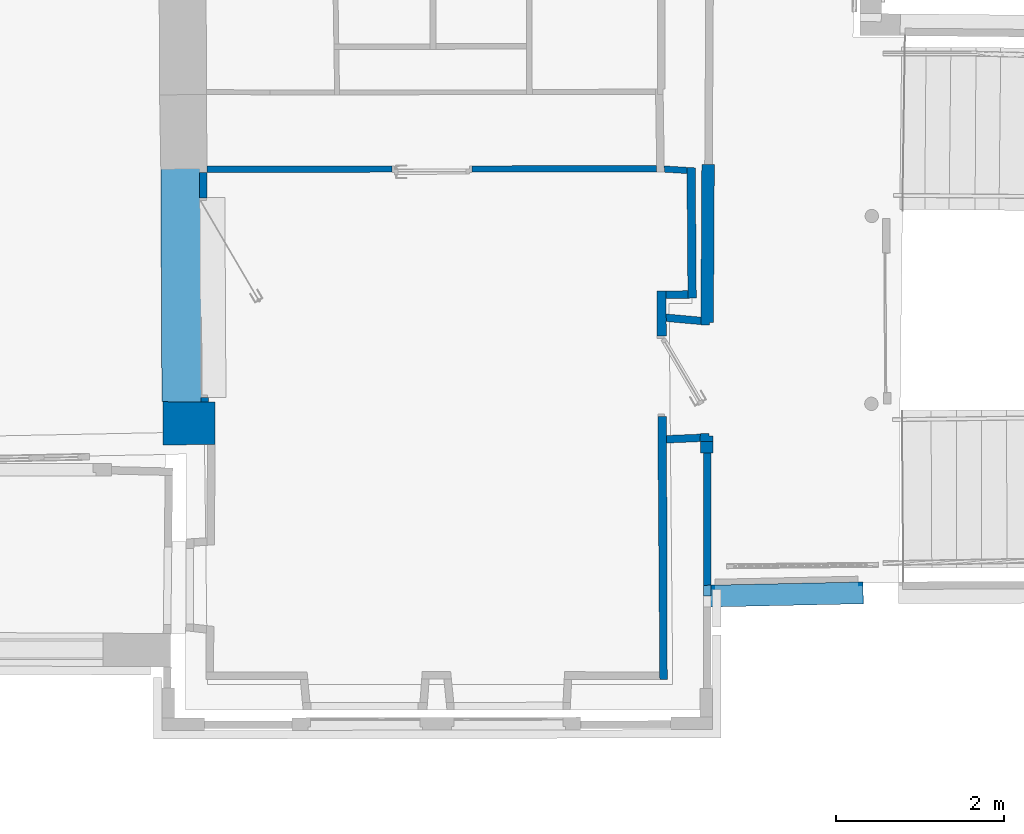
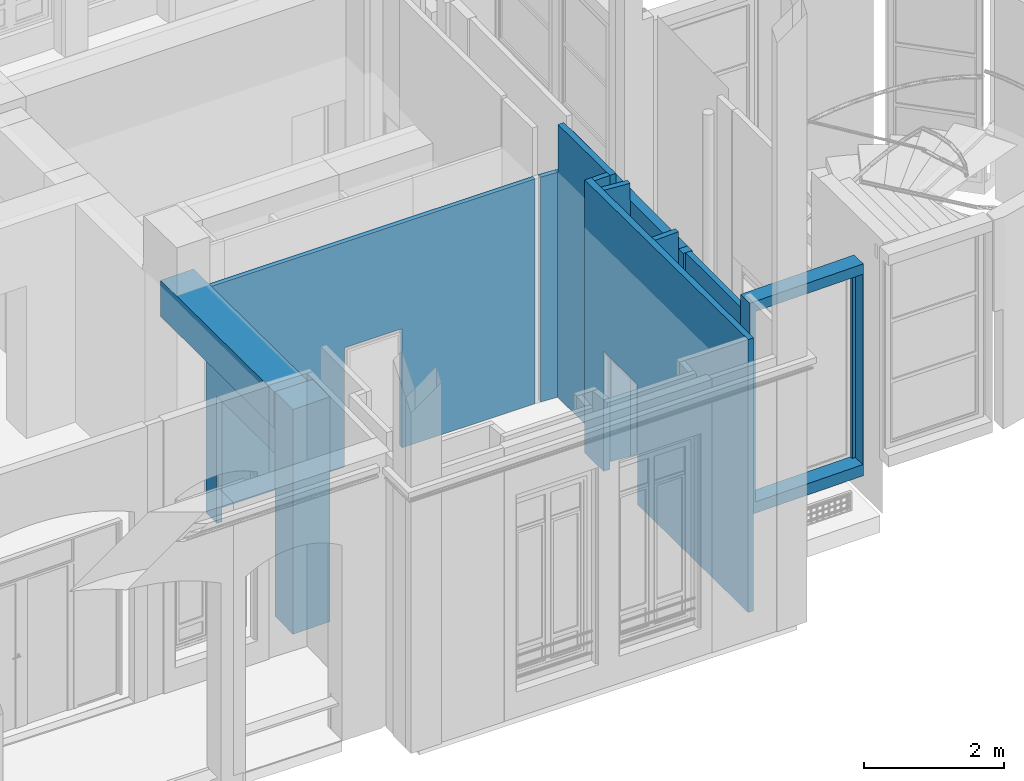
# One storey, part 14 of 97: 14 walls, 5 openings.
"""IFC2X3 building model written with IfcOpenShell, lengths in centimetres."""

from ifc_helpers import new_model, entity, si_unit, converted_unit, direction, frame, origin, origin_with_axes, origin_2d_with_axis, place, context, subcontext, project, spatial, polyline, rectangle, outline, extrude, clip, bounded_halfspace, faceted_brep, shape, material, layer, layer_set, layer_usage, type_object, element, save


model = new_model("IFC2X3")

# Units and contexts
model_context = context("Model", 3, precision=0.0001, world=origin(), true_north=direction((0.225632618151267, 0.974212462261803, 0.0)))
body_context = subcontext(model_context, "Body", "Model", "MODEL_VIEW")
footprint_context = subcontext(model_context, "FootPrint", "Model", "MODEL_VIEW")
profile_context = subcontext(model_context, "Profile", "Model", "MODEL_VIEW")
ifc_project = project(units=[si_unit("LENGTHUNIT", "METRE", prefix="CENTI"), si_unit("AREAUNIT", "SQUARE_METRE", prefix="CENTI"), si_unit("VOLUMEUNIT", "CUBIC_METRE", prefix="CENTI"), converted_unit("PLANEANGLEUNIT", "DEGREE", entity("IfcRatioMeasure", 0.0174532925), si_unit("PLANEANGLEUNIT", "RADIAN"), dimensions=[0, 0, 0, 0, 0, 0, 0])], contexts=[model_context])

# Site, building, storey
site_placement = place(None, origin_with_axes())
site = spatial("IfcSite", under=ifc_project, at=site_placement, Name="Default Site", CompositionType="ELEMENT")
building_placement = place(site_placement, origin_with_axes())
building = spatial("IfcBuilding", under=site, at=building_placement, Name="Default Building", CompositionType="ELEMENT")
storey_placement = place(building_placement, origin_with_axes())
storey = spatial("IfcBuildingStorey", under=building, at=storey_placement, Name="Rez-de-chaussée", CompositionType="ELEMENT", Elevation=0.0)

# Wall, opening
ifc_material = material(Name="<aucun>")
ifc_layer_1 = layer(ifc_material, 26.0)
ifc_layer_set_1 = layer_set([ifc_layer_1], Name="default")
ifc_layer_usage_1 = layer_usage(ifc_layer_set_1, "AXIS2", "POSITIVE", -13.0)
wall_type_1 = type_object("IfcWallType", Name="default 260", PredefinedType="NOTDEFINED", material=ifc_layer_set_1)
wall_1_placement = place(storey_placement, frame((893.110482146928, -889.643335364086, 100.0), z_axis=(0.0, 0.0, 1.0), x_axis=(0.999775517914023, 0.0211875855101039, 0.0)))
wall_1 = element("IfcWallStandardCase", 1, at=wall_1_placement, inside=storey, type_object=wall_type_1, material=ifc_layer_usage_1, Name="Enveloppe 531153", context=body_context, shape_type="SweptSolid", body=[
    extrude(outline(polyline([(-8.85924768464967, -12.9999999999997), (181.57111662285, -12.9999999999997), (181.571116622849, 13.0000000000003), (-8.3135869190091, 13.0000000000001), (-8.85924768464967, -12.9999999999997)])), frame((0.0, 0.0, -8.88178419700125e-14), z_axis=(0.0, 0.0, 1.0), x_axis=(1.0, 0.0, 0.0)), (0.0, 0.0, 1.0), 370.795358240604),
])
opening_1_placement = place(wall_1_placement, frame((0.321148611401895, 0.0, 19.7999999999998), z_axis=(0.0, 0.0, 1.0), x_axis=(-1.0, -1.196959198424e-15, 0.0)))
cartesian_point_1 = entity("IfcCartesianPoint", [0.0, -1.77635683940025e-13, 333.0])
cartesian_point_2 = entity("IfcCartesianPoint", [-180.275340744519, -13.0000000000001])
element("IfcOpeningElement", 2, at=opening_1_placement, cuts=wall_1, Name="4294966539_11", ObjectType="Opening", shapes=[
    shape(body_context, "Body", "Brep", [faceted_brep([(-4.99996269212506, -32.9999921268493, 332.999987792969), (-175.275346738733, -32.9999919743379, 332.999987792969), (-175.275346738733, -32.9999919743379, -4.57763669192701e-06), (-4.99996269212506, -32.9999921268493, -4.57763669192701e-06), (4.3093168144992e-05, 33.0000416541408, -4.57763669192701e-06), (-180.2753357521, 33.000041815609, -4.57763669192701e-06), (-180.2753357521, 33.000041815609, 332.999987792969), (4.3093168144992e-05, 33.0000416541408, 332.999987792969), (-4.99996266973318, -8.00000513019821, -4.57763669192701e-06), (-4.99996266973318, -8.00000513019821, 332.999987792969), (-5.00003942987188, -8.00000513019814, 332.999987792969), (-5.00003942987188, -8.00000513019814, -4.57763669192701e-06), (-4.20305417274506e-05, -8.00000513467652, -4.57763669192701e-06), (-4.20305417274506e-05, -8.00000513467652, 332.999987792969), (-4.20305417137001e-05, -7.99998978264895, 332.999987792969), (-4.20305417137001e-05, -7.99998978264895, -4.57763669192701e-06), (-4.19938189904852e-05, 33.0000416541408, -4.57763669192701e-06), (-4.19938189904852e-05, 33.0000416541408, 332.999987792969), (-175.275346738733, -33.0000178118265, -4.57763669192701e-06), (-175.275328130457, -8.00003283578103, -4.57763669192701e-06), (-180.275323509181, -7.99995283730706, -4.57763669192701e-06), (-180.2753357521, 32.9999852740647, -4.57763669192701e-06), (-175.275346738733, -33.0000178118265, 332.999987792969), (-175.275346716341, -8.00003283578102, 332.999987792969), (-175.275346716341, -8.00003283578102, -4.57763669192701e-06), (-175.275328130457, -8.00003283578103, 332.999987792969), (-180.275323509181, -8.00003283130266, 332.999987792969), (-180.275323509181, -8.00003283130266, -4.57763669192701e-06), (-180.275323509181, -7.99995283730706, 332.999987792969), (-180.275323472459, 32.9999852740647, 332.999987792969), (-180.275323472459, 32.9999852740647, -4.57763669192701e-06), (-180.2753357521, 32.9999852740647, 332.999987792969)], [[[0, 1, 2, 3]], [[4, 5, 6, 7]], [[0, 3, 8, 9]], [[10, 11, 12, 13]], [[14, 15, 16, 17]], [[3, 18, 19, 20, 21, 4, 15, 11]], [[18, 22, 23, 24]], [[19, 25, 26, 27]], [[20, 28, 29, 30]], [[10, 14, 7, 31, 28, 25, 22, 0]]])]),
    shape(profile_context, "Profile", "GeometricCurveSet", [entity("IfcGeometricCurveSet", [entity("IfcPolyline", [cartesian_point_1, entity("IfcCartesianPoint", [0.0, -1.77635683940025e-13, 0.0]), entity("IfcCartesianPoint", [-180.275340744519, 0.0, 0.0]), entity("IfcCartesianPoint", [-180.275340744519, 0.0, 333.0]), cartesian_point_1])])]),
    shape(footprint_context, "FootPrint", "GeometricCurveSet", [entity("IfcGeometricCurveSet", [entity("IfcPolyline", [cartesian_point_2, entity("IfcCartesianPoint", [0.0, -13.0000000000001]), entity("IfcCartesianPoint", [0.0, 12.9999999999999]), entity("IfcCartesianPoint", [-180.275340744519, 12.9999999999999]), cartesian_point_2])])]),
])

ifc_layer_2 = layer(ifc_material, 9.0)
ifc_layer_set_2 = layer_set([ifc_layer_2], Name="default")
ifc_layer_usage_2 = layer_usage(ifc_layer_set_2, "AXIS2", "POSITIVE", -4.5)
wall_type_2 = type_object("IfcWallType", Name="default 90", PredefinedType="NOTDEFINED", material=ifc_layer_set_2)
wall_2_placement = place(storey_placement, frame((289.706324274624, -658.326403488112, 0.0128503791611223), z_axis=(0.0, 0.0, 1.0), x_axis=(-0.00550813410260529, 0.999984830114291, 0.0)))
wall_2 = element("IfcWallStandardCase", 3, at=wall_2_placement, inside=storey, type_object=wall_type_2, material=ifc_layer_usage_2, Name="Enveloppe 752182", context=body_context, shape_type="SweptSolid", body=[
    extrude(rectangle(XDim=9.00000000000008, YDim=273.233605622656, at=origin_2d_with_axis()), frame((136.715660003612, 1.11022302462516e-12, -3.10867867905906e-13), z_axis=(0.0, 0.0, 1.0), x_axis=(-2.60208521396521e-17, -1.0, 0.0)), (0.0, 0.0, 1.0), 329.987149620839),
])
opening_2_placement = place(wall_2_placement, frame((5.27626808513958, 5.6843418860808e-14, 8.84708972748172e-17), z_axis=(0.0, 0.0, 1.0), x_axis=(1.0, 8.04304539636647e-15, 0.0)))
cartesian_point_3 = entity("IfcCartesianPoint", [0.0, 0.0, 222.3])
cartesian_point_4 = entity("IfcCartesianPoint", [238.127524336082, 4.50000000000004])
element("IfcOpeningElement", 4, at=opening_2_placement, cuts=wall_2, Name="4294966380_11", ObjectType="Opening", shapes=[
    shape(body_context, "Body", "SweptSolid", [extrude(outline(polyline([(0.0, 222.3), (0.0, 0.0), (238.127524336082, 0.0), (238.127524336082, 222.3), (0.0, 222.3)])), frame((0.0, 14.5, 0.0), z_axis=(0.0, -1.0, 0.0), x_axis=(1.0, 0.0, 0.0)), (0.0, 0.0, 1.0), 29.0)]),
    shape(profile_context, "Profile", "GeometricCurveSet", [entity("IfcGeometricCurveSet", [entity("IfcPolyline", [cartesian_point_3, entity("IfcCartesianPoint", [0.0, 0.0, 0.0]), entity("IfcCartesianPoint", [238.127524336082, 0.0, 0.0]), entity("IfcCartesianPoint", [238.127524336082, 0.0, 222.3]), cartesian_point_3])])]),
    shape(footprint_context, "FootPrint", "GeometricCurveSet", [entity("IfcGeometricCurveSet", [entity("IfcPolyline", [cartesian_point_4, entity("IfcCartesianPoint", [0.0, 4.50000000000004]), entity("IfcCartesianPoint", [0.0, -4.50000000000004]), entity("IfcCartesianPoint", [238.127524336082, -4.49999999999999]), cartesian_point_4])])]),
])

# Walls
ifc_layer_usage_3 = layer_usage(ifc_layer_set_2, "AXIS2", "POSITIVE", -4.5)
wall_3_placement = place(storey_placement, frame((837.70810120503, -530.391457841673, 0.0128503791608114), z_axis=(0.0, 0.0, 1.0), x_axis=(0.999974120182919, 0.00719437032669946, 0.0)))
element("IfcWallStandardCase", 5, at=wall_3_placement, inside=storey, type_object=wall_type_2, material=ifc_layer_usage_3, Name="Enveloppe 719231", context=body_context, shape_type="SweptSolid", body=[
    extrude(rectangle(XDim=25.916160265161, YDim=9.00000064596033, at=origin_2d_with_axis()), frame((15.043626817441, -8.88178419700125e-14, -2.71050543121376e-18), z_axis=(0.0, 0.0, 1.0), x_axis=(1.0, -9.89226062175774e-15, 0.0)), (0.0, 0.0, 1.0), 477.795358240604),
])
ifc_layer_usage_4 = layer_usage(ifc_layer_set_2, "AXIS2", "POSITIVE", -4.5)
wall_4_placement = place(storey_placement, frame((881.34857271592, -561.654514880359, 0.0128503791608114), z_axis=(0.0, 0.0, 1.0), x_axis=(-0.995993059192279, 0.0894305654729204, 0.0)))
element("IfcWallStandardCase", 6, at=wall_4_placement, inside=storey, type_object=wall_type_2, material=ifc_layer_usage_4, Name="Enveloppe 719262", context=body_context, shape_type="Clipping", body=[
    clip(clip(extrude(outline(polyline([(42.0381142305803, -4.5000000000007), (41.2037277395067, 4.06395358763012), (41.2037277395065, 4.49999999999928), (-0.242515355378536, 4.49999999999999), (0.0, 1.61616098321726), (-1.77635683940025e-13, -4.50000000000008), (42.0381142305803, -4.5000000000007)])), frame((0.0, 0.0, 2.71050543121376e-18), z_axis=(0.0, 0.0, 1.0), x_axis=(1.0, 0.0, 0.0)), (0.0, 0.0, 1.0), 477.795358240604), bounded_halfspace(frame((0.514336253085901, -4.49999999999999, 447.782507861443), z_axis=(0.0, 0.0, 1.0), x_axis=(-1.0, 6.01602101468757e-14, 0.0)), True, frame((0.514336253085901, -4.49999999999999, 447.782507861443), z_axis=(0.0, 0.0, 1.0), x_axis=(1.0, 0.0, 0.0)), polyline([(-0.514336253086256, 0.0), (-0.514336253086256, 6.11616098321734), (-1.77635683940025e-13, 8.88178419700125e-14), (-0.514336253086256, 0.0)]))), bounded_halfspace(frame((0.0, 1.61616098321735, 447.782507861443), z_axis=(0.0, 0.0, -1.0), x_axis=(-6.82787160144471e-14, 1.0, 0.0)), True, frame((0.0, 1.61616098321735, 447.782507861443), z_axis=(0.0, 0.0, 1.0), x_axis=(1.0, 0.0, 0.0)), polyline([(-0.242515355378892, 2.88383901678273), (-1.77635683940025e-13, 0.0), (-3.5527136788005e-13, 2.88383901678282), (-0.242515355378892, 2.88383901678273)]))),
])
ifc_layer_usage_5 = layer_usage(ifc_layer_set_2, "AXIS2", "POSITIVE", -4.5)
wall_5_placement = place(storey_placement, frame((838.860735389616, -702.819496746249, 0.0128503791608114), z_axis=(0.0, 0.0, 1.0), x_axis=(0.999117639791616, 0.0419993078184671, 0.0)))
element("IfcWallStandardCase", 7, at=wall_5_placement, inside=storey, type_object=wall_type_2, material=ifc_layer_usage_5, Name="Enveloppe 719893", context=body_context, shape_type="Clipping", body=[
    clip(clip(extrude(outline(polyline([(1.63038085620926, 4.4999999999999), (1.32031305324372, -4.4999999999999), (41.7272832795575, -4.50000000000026), (41.7272832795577, 2.64792158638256), (41.8156288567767, 4.49999999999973), (1.63038085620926, 4.4999999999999)])), origin_with_axes(), (0.0, 0.0, 1.0), 477.795358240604), bounded_halfspace(frame((41.7272832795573, 2.64792158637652, 447.782507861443), z_axis=(0.0, 0.0, 1.0), x_axis=(4.07590627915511e-14, -1.0, 0.0)), True, frame((41.7272832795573, 2.64792158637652, 447.782507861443), z_axis=(0.0, 0.0, 1.0), x_axis=(1.0, 0.0, 0.0)), polyline([(-0.340961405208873, -7.14792158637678), (0.0, 0.0), (1.77635683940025e-13, -7.14792158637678), (-0.340961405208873, -7.14792158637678)]))), bounded_halfspace(frame((41.7272832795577, 4.49999999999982, 447.782507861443), z_axis=(0.0, 0.0, -1.0), x_axis=(-2.23571161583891e-14, -1.0, 0.0)), True, frame((41.7272832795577, 4.49999999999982, 447.782507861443), z_axis=(0.0, 0.0, 1.0), x_axis=(1.0, 0.0, 0.0)), polyline([(1.77635683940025e-13, -1.85207841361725), (0.088345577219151, -8.88178419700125e-14), (1.77635683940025e-13, 8.88178419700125e-14), (1.77635683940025e-13, -1.85207841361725)]))),
])
ifc_layer_usage_6 = layer_usage(ifc_layer_set_2, "AXIS2", "POSITIVE", -4.5)
wall_6_placement = place(storey_placement, frame((889.025972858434, -889.729895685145, -1.99999999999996), z_axis=(0.0, 0.0, 1.0), x_axis=(-0.000205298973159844, 0.999999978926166, 0.0)))
element("IfcWallStandardCase", 8, at=wall_6_placement, inside=storey, type_object=wall_type_2, material=ifc_layer_usage_6, Name="Enveloppe 365779", context=body_context, shape_type="Clipping", body=[
    clip(extrude(rectangle(XDim=8.99999996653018, YDim=170.705580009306, at=origin_2d_with_axis()), frame((85.3528754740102, -1.4210854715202e-12, 0.0), z_axis=(0.0, 0.0, 1.0), x_axis=(-1.89931906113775e-05, -0.99999999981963, 0.0)), (0.0, 0.0, 1.0), 449.795358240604), bounded_halfspace(frame((-1.77635683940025e-13, -4.50000000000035, 102.0), z_axis=(0.0, 0.0, -1.0), x_axis=(1.0, -6.73219075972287e-15, 0.0)), True, frame((-1.77635683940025e-13, -4.50000000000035, 102.0), z_axis=(0.0, 0.0, 1.0), x_axis=(1.0, 0.0, 0.0)), polyline([(0.0, 0.0), (13.0973039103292, 1.77635683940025e-13), (12.908421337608, 9.00000000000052), (0.0, 9.0000000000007), (0.0, 0.0)]))),
])

# Wall, opening
ifc_layer_usage_7 = layer_usage(ifc_layer_set_2, "AXIS2", "POSITIVE", -4.5)
wall_7_placement = place(storey_placement, frame((836.617423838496, -980.350912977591, 0.0128503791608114), z_axis=(0.0, 0.0, 1.0), x_axis=(-0.007573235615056, 0.999971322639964, 0.0)))
wall_7 = element("IfcWallStandardCase", 9, at=wall_7_placement, inside=storey, type_object=wall_type_2, material=ifc_layer_usage_7, Name="Enveloppe 3181", context=body_context, shape_type="SweptSolid", body=[
    extrude(outline(polyline([(454.4417010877, 4.5000000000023), (417.862401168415, 4.50000000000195), (272.699068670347, 4.50000000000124), (-8.54611081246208, 4.49999999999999), (-8.62566665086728, -4.50000000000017), (1.75859327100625e-11, -4.49999999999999), (272.699076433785, -5.77471317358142), (273.053145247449, -5.77739469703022), (273.054596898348, -5.81953018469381), (282.059936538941, -5.81953018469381), (417.862401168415, -6.45484001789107), (418.296392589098, -6.49712382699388), (428.585141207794, -6.50500304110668), (445.437501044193, -6.58384159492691), (454.437501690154, -6.58384159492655), (454.4417010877, 4.5000000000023)])), origin_with_axes(), (0.0, 0.0, 1.0), 477.795358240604),
])
opening_3_placement = place(wall_7_placement, frame((304.845865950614, 1.36424205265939e-12, 1.73472347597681e-18), z_axis=(0.0, 0.0, 1.0), x_axis=(-1.0, -5.30912119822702e-15, 0.0)))
cartesian_point_5 = entity("IfcCartesianPoint", [0.0, 0.0, 210.0])
cartesian_point_6 = entity("IfcCartesianPoint", [-95.742107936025, -4.49999999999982])
element("IfcOpeningElement", 10, at=opening_3_placement, cuts=wall_7, Name="4294966349_11", ObjectType="Opening", shapes=[
    shape(body_context, "Body", "SweptSolid", [extrude(outline(polyline([(-8.88178419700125e-14, 210.0), (-8.88178419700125e-14, 0.0), (95.7421079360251, 0.0), (95.7421079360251, 210.0), (-8.88178419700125e-14, 210.0)])), frame((0.0, -14.5, 0.0), z_axis=(0.0, 1.0, 0.0), x_axis=(-1.0, 0.0, 0.0)), (0.0, 0.0, 1.0), 30.9789336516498)]),
    shape(profile_context, "Profile", "GeometricCurveSet", [entity("IfcGeometricCurveSet", [entity("IfcPolyline", [cartesian_point_5, entity("IfcCartesianPoint", [0.0, 0.0, 0.0]), entity("IfcCartesianPoint", [-95.742107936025, 0.0, 0.0]), entity("IfcCartesianPoint", [-95.742107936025, 0.0, 210.0]), cartesian_point_5])])]),
    shape(footprint_context, "FootPrint", "GeometricCurveSet", [entity("IfcGeometricCurveSet", [entity("IfcPolyline", [cartesian_point_6, entity("IfcCartesianPoint", [8.88178419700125e-14, -4.49999999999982]), entity("IfcCartesianPoint", [0.0, 5.92612710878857]), entity("IfcCartesianPoint", [-95.7421079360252, 6.37402695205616]), cartesian_point_6])])]),
])

# Walls
ifc_layer_3 = layer(ifc_material, 10.0)
ifc_layer_set_3 = layer_set([ifc_layer_3], Name="default")
ifc_layer_usage_8 = layer_usage(ifc_layer_set_3, "AXIS2", "POSITIVE", -5.0)
wall_type_3 = type_object("IfcWallType", Name="default 100", PredefinedType="NOTDEFINED", material=ifc_layer_set_3)
wall_8_placement = place(storey_placement, frame((870.674889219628, -525.656054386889, 0.0128503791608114), z_axis=(0.0, 0.0, 1.0), x_axis=(-0.00757323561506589, 0.999971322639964, 0.0)))
element("IfcWallStandardCase", 11, at=wall_8_placement, inside=storey, type_object=wall_type_3, material=ifc_layer_usage_8, Name="Enveloppe 3475", context=body_context, shape_type="Clipping", body=[
    clip(extrude(outline(polyline([(147.07757238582, 4.99999999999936), (-8.99621188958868, 5.00000000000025), (-9.00000064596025, -5.00000000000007), (146.372198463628, -5.0000000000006), (147.07757238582, 4.99999999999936)])), frame((0.0, 0.0, -2.71050543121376e-18), z_axis=(0.0, 0.0, 1.0), x_axis=(1.0, 0.0, 0.0)), (0.0, 0.0, 1.0), 477.795358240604), bounded_halfspace(frame((147.07757238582, 4.99999999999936, 393.395358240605), z_axis=(0.0, 0.0, -1.0), x_axis=(-1.0, -1.76594849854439e-14, 0.0)), True, frame((147.07757238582, 4.99999999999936, 393.395358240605), z_axis=(0.0, 0.0, 1.0), x_axis=(1.0, 0.0, 0.0)), polyline([(-8.21879836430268, -10.0000000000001), (-0.705373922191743, -9.99999999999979), (8.88178419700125e-14, 0.0), (-8.21879836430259, 0.0), (-8.21879836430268, -10.0000000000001)]))),
])
ifc_layer_4 = layer(ifc_material, 15.0)
ifc_layer_set_4 = layer_set([ifc_layer_4], Name="default")
ifc_layer_usage_9 = layer_usage(ifc_layer_set_4, "AXIS2", "POSITIVE", -7.5)
wall_type_4 = type_object("IfcWallType", Name="default 150", PredefinedType="NOTDEFINED", material=ifc_layer_set_4)
wall_9_placement = place(storey_placement, frame((888.035633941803, -719.025443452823, 0.0128503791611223), z_axis=(0.0, 0.0, 1.0), x_axis=(0.000104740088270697, 0.999999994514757, 0.0)))
element("IfcWallStandardCase", 12, at=wall_9_placement, inside=storey, type_object=wall_type_4, material=ifc_layer_usage_9, Name="Enveloppe 366460", context=body_context, shape_type="SweptSolid", body=[
    extrude(outline(polyline([(1.77635683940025e-13, 7.50000000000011), (0.000214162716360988, -7.49999997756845), (19.998534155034, -7.4999999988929), (19.9985235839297, -7.39907298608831), (13.4532135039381, -7.36275706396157), (13.4531090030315, 7.50000000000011), (1.77635683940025e-13, 7.50000000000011)])), frame((0.0, 0.0, -2.71050543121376e-18), z_axis=(0.0, 0.0, 1.0), x_axis=(1.0, 0.0, 0.0)), (0.0, 0.0, 1.0), 447.782507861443),
])

# Wall, opening
ifc_layer_usage_10 = layer_usage(ifc_layer_set_4, "AXIS2", "POSITIVE", -7.5)
wall_10_placement = place(storey_placement, frame((887.936689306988, -699.026348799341, 0.0128503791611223), z_axis=(0.0, 0.0, 1.0), x_axis=(0.00565295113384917, 0.99998402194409, 0.0)))
wall_10 = element("IfcWallStandardCase", 13, at=wall_10_placement, inside=storey, type_object=wall_type_4, material=ifc_layer_usage_10, Name="Enveloppe 366762", context=body_context, shape_type="SweptSolid", body=[
    extrude(outline(polyline([(323.791725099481, 7.49999999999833), (141.859669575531, 7.49999999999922), (-6.59348293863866, 7.49999999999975), (-6.50435919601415, -7.49999940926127), (141.859669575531, -7.50000000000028), (323.791725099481, -7.50000000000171), (323.791725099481, -4.9996254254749), (323.887243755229, -4.99967298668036), (323.891721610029, 4.0009409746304), (323.791725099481, 4.00037569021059), (323.791725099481, 7.49999999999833)])), frame((0.0, 0.0, -3.10865157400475e-13), z_axis=(0.0, 0.0, 1.0), x_axis=(1.0, 0.0, 0.0)), (0.0, 0.0, 1.0), 447.782507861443),
])
opening_4_placement = place(wall_10_placement, frame((-0.00546260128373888, 1.13686837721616e-13, -1.10970260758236e-14), z_axis=(0.0, 0.0, 1.0), x_axis=(-1.0, 3.96557786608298e-15, 0.0)))
cartesian_point_7 = entity("IfcCartesianPoint", [0.0, 0.0, 390.780431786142])
cartesian_point_8 = entity("IfcCartesianPoint", [-135.427922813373, -7.49999999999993])
element("IfcOpeningElement", 14, at=opening_4_placement, cuts=wall_10, Name="Baie 719130", ObjectType="Opening", shapes=[
    shape(body_context, "Body", "Brep", [faceted_brep([(-2.99999561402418, -27.4999741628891, 390.780425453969), (-132.427923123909, -27.4999741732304, 390.780425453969), (-132.427923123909, -27.4999741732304, -4.62907503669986e-10), (-2.99999561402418, -27.4999741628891, -4.62907503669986e-10), (-0.00547253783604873, 27.5000178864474, -4.62907503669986e-10), (-135.427910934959, 27.5000178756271, -4.62907503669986e-10), (-135.427910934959, 27.5000178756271, 390.780425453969), (-0.00547253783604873, 27.5000178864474, 390.780425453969), (-2.99999561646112, 2.99997153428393, -4.62907503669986e-10), (-2.99999561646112, 2.99997153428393, 390.780425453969), (-2.99998600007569, 2.99997153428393, 390.780425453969), (-2.99998600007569, 2.99997153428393, -4.62907503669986e-10), (-1.23585288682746e-05, 2.99997153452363, -4.62907503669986e-10), (-1.23585288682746e-05, 2.99997153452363, 390.780425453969), (-1.23585288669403e-05, 2.99995483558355, 390.780425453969), (-1.23585288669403e-05, 2.99995483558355, -4.62907503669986e-10), (-1.23604864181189e-05, 27.4999535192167, -4.62907503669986e-10), (-1.23604864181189e-05, 27.4999535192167, 390.780425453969), (-132.427923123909, -27.4999649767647, -4.62907503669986e-10), (-132.42791350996, 2.99998072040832, -4.62907503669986e-10), (-135.427934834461, 2.99999714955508, -4.62907503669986e-10), (-135.427910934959, 27.4999958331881, -4.62907503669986e-10), (1.15409729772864e-05, 27.4999535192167, -4.62907503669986e-10), (-132.427923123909, -27.4999649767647, 390.780425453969), (-132.427923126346, 2.99998072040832, 390.780425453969), (-132.427923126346, 2.99998072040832, -4.62907503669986e-10), (-132.42791350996, 2.99998072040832, 390.780425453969), (-135.427934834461, 2.99998072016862, 390.780425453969), (-135.427934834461, 2.99998072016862, -4.62907503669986e-10), (-135.427934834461, 2.99999714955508, 390.780425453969), (-135.427934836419, 27.4999958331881, 390.780425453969), (-135.427934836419, 27.4999958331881, -4.62907503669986e-10), (1.15409729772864e-05, 27.4999535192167, 390.780425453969), (-135.427910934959, 27.4999958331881, 390.780425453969)], [[[0, 1, 2, 3]], [[4, 5, 6, 7]], [[0, 3, 8, 9]], [[10, 11, 12, 13]], [[14, 15, 16, 17]], [[3, 18, 19, 20, 21, 22, 15, 11]], [[18, 23, 24, 25]], [[19, 26, 27, 28]], [[20, 29, 30, 31]], [[10, 14, 32, 33, 29, 26, 23, 0]]])]),
    shape(profile_context, "Profile", "GeometricCurveSet", [entity("IfcGeometricCurveSet", [entity("IfcPolyline", [cartesian_point_7, entity("IfcCartesianPoint", [0.0, 0.0, -2.71050543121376e-18]), entity("IfcCartesianPoint", [-135.427922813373, 1.77635683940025e-13, -2.71050543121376e-18]), entity("IfcCartesianPoint", [-135.427922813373, 1.77635683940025e-13, 390.780431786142]), cartesian_point_7])])]),
    shape(footprint_context, "FootPrint", "GeometricCurveSet", [entity("IfcGeometricCurveSet", [entity("IfcPolyline", [cartesian_point_8, entity("IfcCartesianPoint", [8.88178419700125e-14, -7.49999999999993]), entity("IfcCartesianPoint", [-8.88178419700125e-14, 7.49999999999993]), entity("IfcCartesianPoint", [-135.427922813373, 7.49999999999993]), cartesian_point_8])])]),
])

# Wall
ifc_layer_5 = layer(ifc_material, 7.5)
ifc_layer_set_5 = layer_set([ifc_layer_5], Name="default")
ifc_layer_usage_11 = layer_usage(ifc_layer_set_5, "AXIS2", "POSITIVE", -3.75)
wall_type_5 = type_object("IfcWallType", Name="default 75", PredefinedType="NOTDEFINED", material=ifc_layer_set_5)
wall_11_placement = place(storey_placement, frame((875.134882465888, -383.043390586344, 0.0128503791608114), z_axis=(0.0, 0.0, 1.0), x_axis=(-0.998025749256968, 0.0628060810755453, 0.0)))
element("IfcWallStandardCase", 15, at=wall_11_placement, inside=storey, type_object=wall_type_5, material=ifc_layer_usage_11, Name="Enveloppe 3464", context=body_context, shape_type="SweptSolid", body=[
    extrude(outline(polyline([(37.9535065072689, -3.75000000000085), (37.3684031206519, 3.74999999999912), (10.3015776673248, 3.74999999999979), (10.8306081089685, -3.75000000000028), (37.9535065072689, -3.75000000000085)])), frame((0.0, 0.0, 2.71050543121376e-18), z_axis=(0.0, 0.0, 1.0), x_axis=(1.0, 0.0, 0.0)), (0.0, 0.0, 1.0), 393.395358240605),
])

# Wall, opening
ifc_layer_usage_12 = layer_usage(ifc_layer_set_5, "AXIS2", "POSITIVE", -3.75)
wall_12_placement = place(storey_placement, frame((292.693201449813, -381.040684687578, 0.0128503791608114), z_axis=(0.0, 0.0, 1.0), x_axis=(0.999998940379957, 0.00145576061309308, 0.0)))
wall_12 = element("IfcWallStandardCase", 16, at=wall_12_placement, inside=storey, type_object=wall_type_5, material=ifc_layer_usage_12, Name="Enveloppe 3269", context=body_context, shape_type="Clipping", body=[
    clip(extrude(outline(polyline([(-0.0273800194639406, 3.7500368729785), (-0.00104233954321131, -3.74983942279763), (535.899193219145, -3.75000000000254), (535.797540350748, 3.74999999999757), (-0.0273800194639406, 3.7500368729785)])), origin_with_axes(), (0.0, 0.0, 1.0), 393.395358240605), bounded_halfspace(frame((-0.00205103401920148, 3.75000000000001, 329.987149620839), z_axis=(0.0, 0.0, 1.0), x_axis=(0.0148401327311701, -0.999889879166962, 0.0)), True, frame((-0.00205103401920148, 3.75000000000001, 329.987149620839), z_axis=(0.0, 0.0, 1.0), x_axis=(1.0, 0.0, 0.0)), polyline([(-0.0253290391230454, 0.0), (4.44089209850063e-14, 0.0), (0.111313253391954, -7.50000000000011), (0.00100846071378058, -7.49999999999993), (-0.0253290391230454, 0.0)]))),
])
opening_5_placement = place(wall_12_placement, frame((220.605782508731, -1.02318153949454e-12, 1.77635683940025e-13), z_axis=(0.0, 0.0, 1.0), x_axis=(-1.0, 4.48968119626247e-15, 0.0)))
cartesian_point_9 = entity("IfcCartesianPoint", [0.0, -4.44089209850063e-14, 208.390326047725])
cartesian_point_10 = entity("IfcCartesianPoint", [-95.0, -3.75000000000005])
element("IfcOpeningElement", 17, at=opening_5_placement, cuts=wall_12, Name="4294966365_11", ObjectType="Opening", shapes=[
    shape(body_context, "Body", "SweptSolid", [extrude(outline(polyline([(0.0, 208.390326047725), (0.0, 2.71050543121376e-18), (95.0, 2.71050543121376e-18), (95.0, 208.390326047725), (0.0, 208.390326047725)])), frame((0.0, -13.75, 0.0), z_axis=(0.0, 1.0, 0.0), x_axis=(-1.0, 0.0, 0.0)), (0.0, 0.0, 1.0), 27.5)]),
    shape(profile_context, "Profile", "GeometricCurveSet", [entity("IfcGeometricCurveSet", [entity("IfcPolyline", [cartesian_point_9, entity("IfcCartesianPoint", [0.0, -4.44089209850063e-14, 2.71050543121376e-18]), entity("IfcCartesianPoint", [-95.0, 0.0, 2.71050543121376e-18]), entity("IfcCartesianPoint", [-95.0, 0.0, 208.390326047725]), cartesian_point_9])])]),
    shape(footprint_context, "FootPrint", "GeometricCurveSet", [entity("IfcGeometricCurveSet", [entity("IfcPolyline", [cartesian_point_10, entity("IfcCartesianPoint", [0.0, -3.75000000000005]), entity("IfcCartesianPoint", [-8.88178419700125e-14, 3.74999999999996]), entity("IfcCartesianPoint", [-95.0000000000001, 3.74999999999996]), cartesian_point_10])])]),
])

# Walls
ifc_layer_6 = layer(ifc_material, 55.2076599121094)
ifc_layer_set_6 = layer_set([ifc_layer_6], Name="default")
ifc_layer_usage_13 = layer_usage(ifc_layer_set_6, "AXIS2", "POSITIVE", -27.604)
wall_type_6 = type_object("IfcWallType", Name="default 552.076599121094", PredefinedType="NOTDEFINED", material=ifc_layer_set_6)
wall_13_placement = place(storey_placement, frame((266.449769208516, -657.866536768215, 330.0), z_axis=(0.0, 0.0, 1.0), x_axis=(-0.00496739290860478, 0.999987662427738, 0.0)))
element("IfcWallStandardCase", 18, at=wall_13_placement, inside=storey, type_object=wall_type_6, material=ifc_layer_usage_13, Name="Enveloppe 10853", context=body_context, shape_type="SweptSolid", body=[
    extrude(outline(polyline([(323.070242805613, 27.6039999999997), (-8.88178419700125e-14, 27.6039999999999), (8.88178419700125e-14, 26.3058584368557), (-0.573030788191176, -27.6035089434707), (280.442185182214, -27.604000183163), (280.442059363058, -27.6293288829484), (323.69876495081, -27.3917926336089), (323.070242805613, 27.6039999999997)])), frame((0.0, 0.0, -4.44089209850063e-14), z_axis=(0.0, 0.0, 1.0), x_axis=(1.0, 0.0, 0.0)), (0.0, 0.0, 1.0), 63.4082086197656),
])
ifc_layer_7 = layer(ifc_material, 62.1)
ifc_layer_set_7 = layer_set([ifc_layer_7], Name="default")
ifc_layer_usage_14 = layer_usage(ifc_layer_set_7, "AXIS2", "POSITIVE", -31.05)
wall_type_7 = type_object("IfcWallType", Name="default 621", PredefinedType="NOTDEFINED", material=ifc_layer_set_7)
wall_14_placement = place(storey_placement, frame((270.972688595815, -697.215766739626, 0.0128503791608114), z_axis=(0.0, 0.0, 1.0), x_axis=(0.00566162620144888, 0.999983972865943, 0.0)))
element("IfcWallStandardCase", 19, at=wall_14_placement, inside=storey, type_object=wall_type_7, material=ifc_layer_usage_14, Name="Enveloppe 41159", context=body_context, shape_type="Clipping", body=[
    clip(clip(extrude(outline(polyline([(-12.7978647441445, 31.0500000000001), (-11.4392946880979, -22.08180803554), (-11.4143304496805, -31.05), (39.0433906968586, -31.05), (39.0433906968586, -23.0128963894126), (39.1439169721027, -23.0117734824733), (39.0433906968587, -14.0123349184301), (39.0433906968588, 31.05), (-12.7978647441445, 31.0500000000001)])), origin_with_axes(), (0.0, 0.0, 1.0), 393.395358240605), bounded_halfspace(frame((39.1422423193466, -22.861853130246, 329.987149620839), z_axis=(0.0, 0.0, -1.0), x_axis=(-0.999943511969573, -0.0106288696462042, 0.0)), True, frame((39.1422423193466, -22.861853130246, 329.987149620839), z_axis=(0.0, 0.0, 1.0), x_axis=(1.0, 0.0, 0.0)), polyline([(-0.0988516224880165, -0.151043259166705), (0.00167465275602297, -0.149920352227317), (0.0, 0.0), (-0.0988516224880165, -0.00105074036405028), (-0.0988516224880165, -0.151043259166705)]))), bounded_halfspace(frame((39.0433906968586, -14.0123349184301, 329.987149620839), z_axis=(0.0, 0.0, -1.0), x_axis=(-5.23626281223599e-15, -1.0, 0.0)), True, frame((39.0433906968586, -14.0123349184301, 329.987149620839), z_axis=(0.0, 0.0, 1.0), x_axis=(1.0, 0.0, 0.0)), polyline([(-8.88178419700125e-14, -8.85056895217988), (0.0988516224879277, -8.84951821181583), (8.88178419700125e-14, 0.0), (-8.88178419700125e-14, -8.85056895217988)]))),
])

save(model, "model.ifc")
